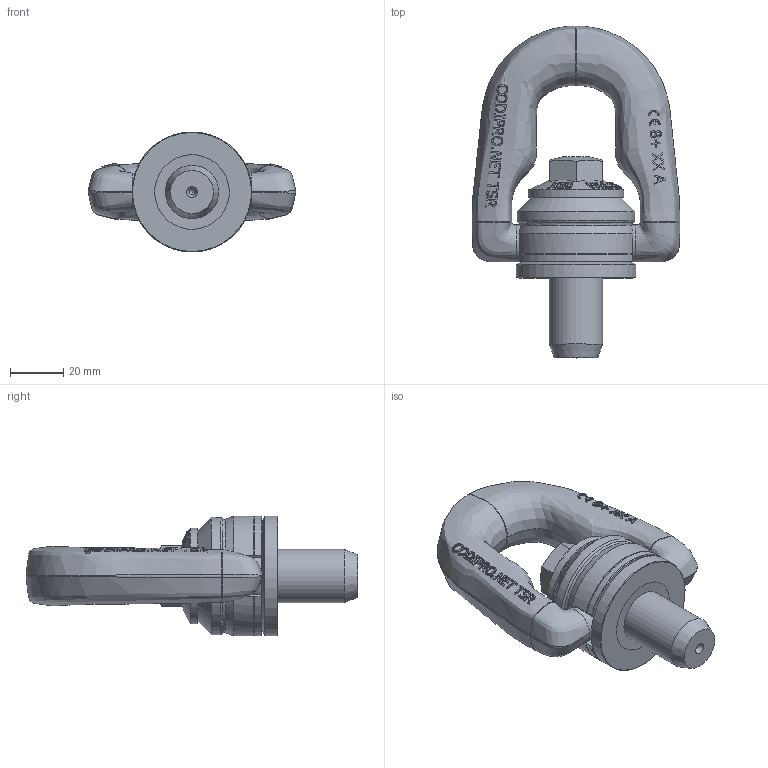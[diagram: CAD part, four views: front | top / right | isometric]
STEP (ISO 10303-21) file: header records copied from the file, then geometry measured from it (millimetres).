
FILE_DESCRIPTION(/* description */ (''),/* implementation_level */ '2;1');
FILE_NAME(/* name */ 'W:\CODIPRO\DOCUMENTS\Plans A NE PAS DIFFUSER !!!\Inventor\Standard Inventor\Produit Fini Inventor\DSP\Fichiers 3D\DSP M20.stp',/* time_stamp */ '2017-10-06T08:45:57+02:00',/* author */ ('rklenes'),/* organization */ (''),/* preprocessor_version */ 'ST-DEVELOPER v16.5',/* originating_system */ 'Autodesk Inventor 2017',/* authorisation */ '');
FILE_SCHEMA (('AUTOMOTIVE_DESIGN { 1 0 10303 214 3 1 1 }'));
Length unit declared in the file: millimetre
Products named in the file (5): DSP M20; DRB_B2B; TSM_AO2C; DRA_M20X60; DRE_D2M20A
Assembly tree (4 placements, depth 2):
  DSP M20
    DRB_B2B
    TSM_AO2C
    DRA_M20X60
    DRE_D2M20A
Bounding box: 77.89 x 124.5 x 45 mm (x, y, z)
Volume: 119761.9 mm3; surface area: 34408.7 mm2
Topology: 4 solids, 4 shells, 551 faces, 1451 edges, 938 vertices
Faces by surface type: plane 258, bspline 219, cone 32, cylinder 28, torus 11, sphere 3
Full cylindrical faces by diameter (mm): 2 x1, 14 x2, 19.85 x2, 19.854 x1, 20 x1, 22.6 x2, 23 x2, 32 x1, 36 x1, 44 x1, 45 x1
Entity records: 27452 total; most frequent: CARTESIAN_POINT 15709, ORIENTED_EDGE 2804, DIRECTION 1646, EDGE_CURVE 1402, VERTEX_POINT 934, EDGE_LOOP 630, B_SPLINE_CURVE_WITH_KNOTS 583, AXIS2_PLACEMENT_3D 568
